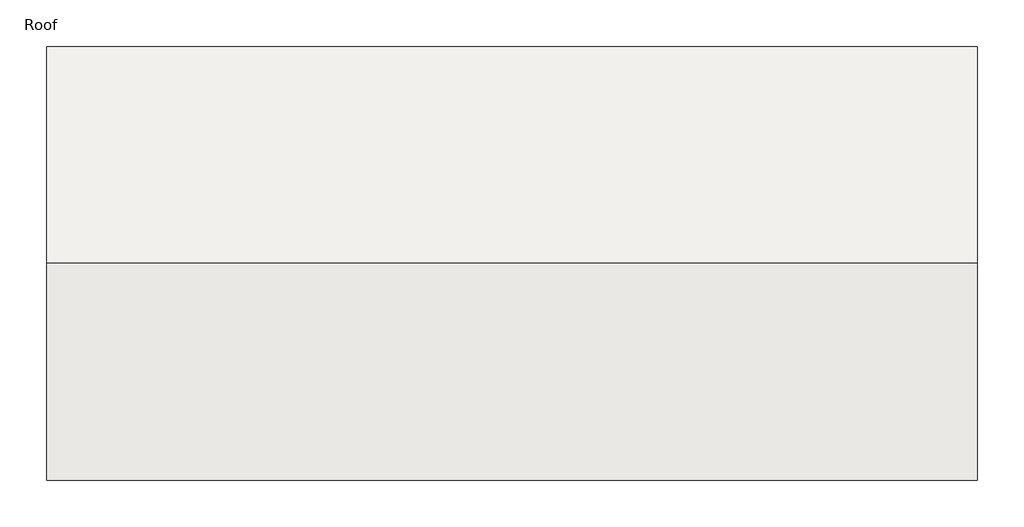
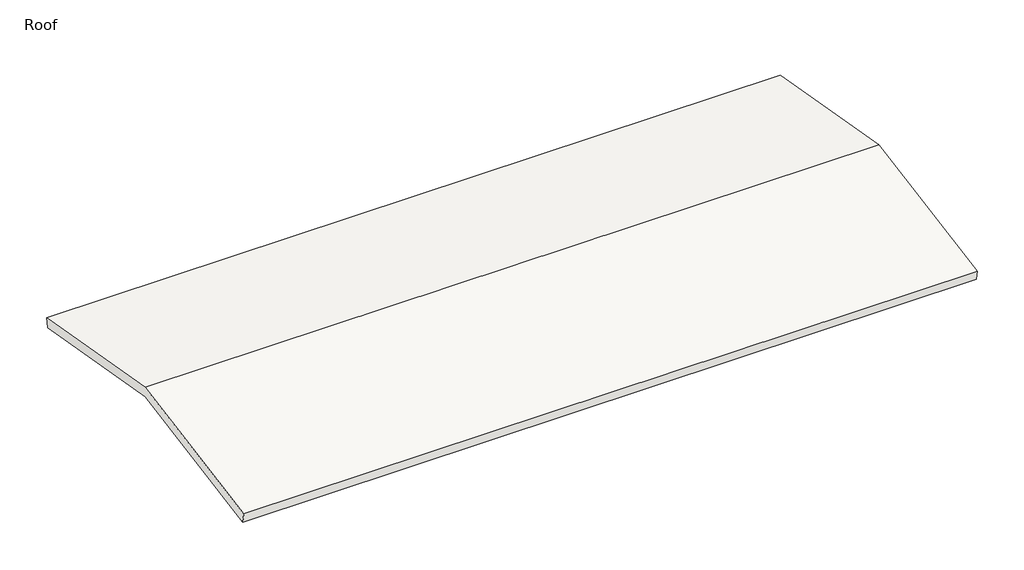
# One storey: 1 roof.
"""IFC4 building model written with IfcOpenShell, lengths in millimetres."""

import ifcopenshell
import ifcopenshell.guid

model = None  # the IFC model being written
_history = None  # IfcOwnerHistory: only IFC2X3 demands one
_inside = {}  # id of a spatial element -> (the spatial element, [elements in it])
_under = {}  # id of a project, library or spatial element -> (it, [spatial elements below it])
_declared = {}  # id of a project -> (the project, [libraries it declares])
_typed = {}  # id of a type object -> (the type object, [elements of that type])
_made_of = {}  # id of a material, layer set ... -> (it, [elements and type objects made of it])


def new_model(schema):
    """Start an empty IFC model of exactly this schema.

    Asked for "IFC4X3", IfcOpenShell would pick the latest addendum, in which some entities
    have other attributes; the version numbers below select the first issue.
    IFC2X3 requires an IfcOwnerHistory on every rooted entity: one is made here for all.
    """
    global model, _history
    if schema == "IFC4X3":
        model = ifcopenshell.file(schema_version=(4, 3, 0, 0))
    else:
        model = ifcopenshell.file(schema=schema)
    _inside.clear()
    _under.clear()
    _declared.clear()
    _typed.clear()
    _made_of.clear()
    _history = None
    if model.schema == "IFC2X3":
        org = make("IfcOrganization", Name="unknown")
        user = make(
            "IfcPersonAndOrganization",
            ThePerson=make("IfcPerson", FamilyName="unknown"),
            TheOrganization=org,
        )
        app = make(
            "IfcApplication",
            ApplicationDeveloper=org,
            Version="unknown",
            ApplicationFullName="unknown",
            ApplicationIdentifier="unknown",
        )
        _history = make(
            "IfcOwnerHistory",
            OwningUser=user,
            OwningApplication=app,
            ChangeAction="ADDED",
            CreationDate=0,
        )
    return model


def make(cls, **values):
    """One entity of the class cls with the attributes given. An attribute that is None is left unset."""
    return model.create_entity(
        cls, **{name: value for name, value in values.items() if value is not None}
    )


def rooted(cls, **values):
    """An entity with a GlobalId (a new one), such as an element, a storey or a relation."""
    return make(cls, GlobalId=ifcopenshell.guid.new(), OwnerHistory=_history, **values)


def si_unit(unit_type, name, prefix=None):
    """IfcSIUnit, for example si_unit("LENGTHUNIT", "METRE", prefix="MILLI")."""
    return make("IfcSIUnit", UnitType=unit_type, Prefix=prefix, Name=name)


def assignment(units):
    """IfcUnitAssignment: the units of a project."""
    return None if units is None else make("IfcUnitAssignment", Units=units)


def point(xyz):
    """IfcCartesianPoint."""
    return None if xyz is None else make("IfcCartesianPoint", Coordinates=xyz)


def direction(xyz):
    """IfcDirection."""
    return None if xyz is None else make("IfcDirection", DirectionRatios=xyz)


def frame(location, z_axis=None, x_axis=None):
    """IfcAxis2Placement3D, a coordinate frame: its origin and axes. An axis left out is left unset."""
    return make(
        "IfcAxis2Placement3D",
        Location=point(location),
        Axis=direction(z_axis),
        RefDirection=direction(x_axis),
    )


def origin():
    """The frame at (0, 0, 0) with its axes left unset."""
    return frame((0.0, 0.0, 0.0))


def place(relative_to, where):
    """IfcLocalPlacement: puts the frame where relative to a parent placement (None: the world)."""
    return make(
        "IfcLocalPlacement", PlacementRelTo=relative_to, RelativePlacement=where
    )


def context(
    kind, dimensions, precision=None, world=None, true_north=None, identifier=None
):
    """IfcGeometricRepresentationContext, for example the 3D "Model" context."""
    return make(
        "IfcGeometricRepresentationContext",
        ContextIdentifier=identifier,
        ContextType=kind,
        CoordinateSpaceDimension=dimensions,
        Precision=precision,
        WorldCoordinateSystem=world,
        TrueNorth=true_north,
    )


def project(units=None, contexts=None):
    """IfcProject with its units and contexts."""
    return rooted(
        "IfcProject",
        Name="project",
        RepresentationContexts=contexts,
        UnitsInContext=assignment(units),
    )


def spatial(cls, under=None, at=None, **own):
    """A site, building, storey or space (cls), placed at a placement, below another one or the project."""
    s = rooted(cls, ObjectPlacement=at, **own)
    if under is not None:
        _under.setdefault(under.id(), (under, []))[1].append(s)
    return s


def polyline(points):
    """IfcPolyline through the points."""
    return make("IfcPolyline", Points=[point(p) for p in points])


def outline(outer, holes=None, kind="AREA"):
    """IfcArbitraryClosedProfileDef: a profile drawn as a closed curve; with holes, ...WithVoids."""
    if holes is None:
        return make("IfcArbitraryClosedProfileDef", ProfileType=kind, OuterCurve=outer)
    return make(
        "IfcArbitraryProfileDefWithVoids",
        ProfileType=kind,
        OuterCurve=outer,
        InnerCurves=holes,
    )


def extrude(swept, where, along, depth):
    """IfcExtrudedAreaSolid: the profile swept, set in the frame where, extruded along a direction by depth."""
    return make(
        "IfcExtrudedAreaSolid",
        SweptArea=swept,
        Position=where,
        ExtrudedDirection=direction(along),
        Depth=depth,
    )


def shape(context_of_items, identifier, shape_type, items):
    """IfcShapeRepresentation: the items that make up one representation, for example the "Body"."""
    return make(
        "IfcShapeRepresentation",
        ContextOfItems=context_of_items,
        RepresentationIdentifier=identifier,
        RepresentationType=shape_type,
        Items=items,
    )


def made_of(thing, what):
    """Note that an element or type object is made of a material, layer set ...; save() writes the relation."""
    if what is not None:
        _made_of.setdefault(what.id(), (what, []))[1].append(thing)
    return thing


def element(
    cls,
    number,
    at=None,
    inside=None,
    cuts=None,
    type_object=None,
    material=None,
    context=None,
    identifier="Body",
    shape_type=None,
    held_by="IfcProductDefinitionShape",
    body=None,
    shapes=None,
    **own,
):
    """One element of the class cls, such as IfcWall. Its Tag is "e" and its number.

    at: its placement. inside: the storey or other place that contains it. cuts: it is an
    opening in that element (IfcRelVoidsElement). A single representation is given by context,
    identifier, shape_type and body (its items); several are given by shapes. held_by: the class
    of the entity that holds the representations. save() writes the other relations.
    """
    e = rooted(cls, Tag="e%d" % number, ObjectPlacement=at, **own)
    if body is not None:
        shapes = [shape(context, identifier, shape_type, body)]
    if shapes is not None:
        e.Representation = make(held_by, Representations=shapes)
    if inside is not None:
        _inside.setdefault(inside.id(), (inside, []))[1].append(e)
    if cuts is not None:
        rooted(
            "IfcRelVoidsElement", RelatingBuildingElement=cuts, RelatedOpeningElement=e
        )
    if type_object is not None:
        _typed.setdefault(type_object.id(), (type_object, []))[1].append(e)
    return made_of(e, material)


def aggregate(whole, parts):
    """IfcRelAggregates: a whole, such as a stair, and the parts it consists of."""
    return rooted("IfcRelAggregates", RelatingObject=whole, RelatedObjects=parts)


def save(model, path):
    """Write the relations noted so far, then the file.

    IfcRelAggregates (storeys below a building ...), IfcRelContainedInSpatialStructure (elements
    in a storey), IfcRelDefinesByType, IfcRelAssociatesMaterial and IfcRelDeclares: one each for
    every whole, place, type object, material and project.
    """
    for whole, parts in _under.values():
        aggregate(whole, parts)
    for where, things in _inside.values():
        rooted(
            "IfcRelContainedInSpatialStructure",
            RelatedElements=things,
            RelatingStructure=where,
        )
    for kind, things in _typed.values():
        rooted("IfcRelDefinesByType", RelatedObjects=things, RelatingType=kind)
    for what, things in _made_of.values():
        rooted("IfcRelAssociatesMaterial", RelatedObjects=things, RelatingMaterial=what)
    for by, libraries in _declared.values():
        rooted("IfcRelDeclares", RelatingContext=by, RelatedDefinitions=libraries)
    model.write(path)


model = new_model("IFC4")

# Units and contexts
model_context = context("Model", 3, world=origin())
ifc_project = project(units=[si_unit("LENGTHUNIT", "METRE", prefix="MILLI")], contexts=[model_context])

# Site, building, storey
site = spatial("IfcSite", under=ifc_project)
building = spatial("IfcBuilding", under=site)
storey = spatial("IfcBuildingStorey", under=building, Name="Roof", Elevation=6096.0)

# Roof
placement = place(None, origin())
element("IfcRoof", 1, ObjectType="Wood Rafter 8\" - Standing Seam - Insulated", at=placement, inside=storey, context=model_context, shape_type="SweptSolid", body=[
    extrude(outline(polyline([(13071.5954207, 5636.8688651), (9135.6400612, 6330.8839899), (5199.6847016, 5636.8688651), (5160.5400612, 5858.8691528), (9135.6400612, 6559.7865338), (13110.7400612, 5858.8691528), (13071.5954207, 5636.8688651)])), frame((-11591.3717693, 0.0, 0.0), z_axis=(1.0, 0.0, 0.0), x_axis=(0.0, 1.0, 0.0)), (0.0, 0.0, 1.0), 17068.8),
])

save(model, "model.ifc")
